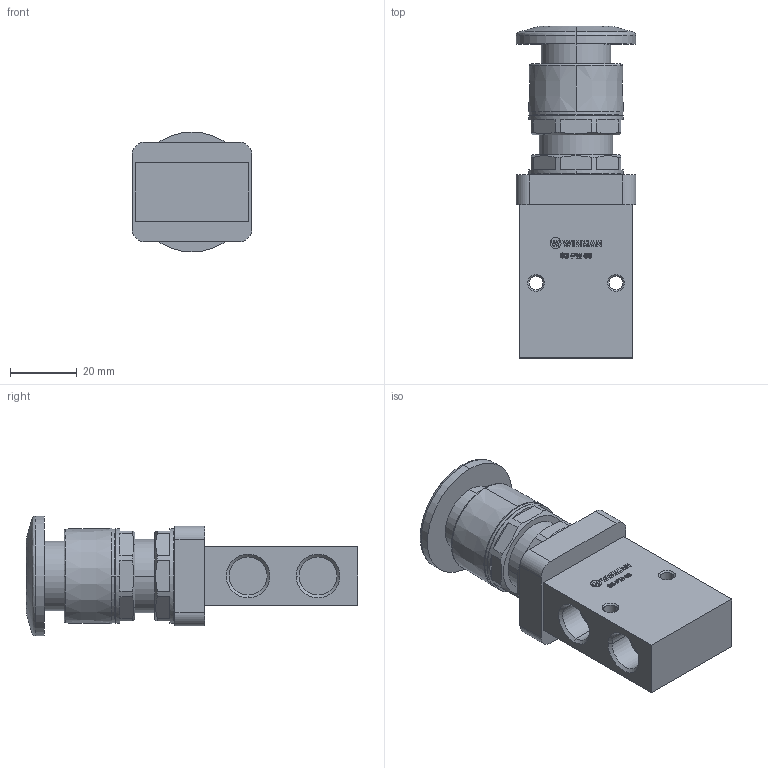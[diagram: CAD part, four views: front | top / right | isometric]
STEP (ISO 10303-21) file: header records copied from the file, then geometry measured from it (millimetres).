
FILE_DESCRIPTION (( 'STEP AP214' ), '1' );
FILE_NAME ('S3-PM-08 (3D).STEP', '2018-12-20T10:15:17', ( 'Hidtek' ), ( '' ), 'SwSTEP 2.0', 'SolidWorks 2016', '' );
FILE_SCHEMA (( 'AUTOMOTIVE_DESIGN' ));
Length unit declared in the file: millimetre
Products named in the file (6): _PP Type Base; S3-PM-08 (3D); S3-B-08; _Fix nut; _PM-B Type Button; S3-PM
Assembly tree (6 placements, depth 3):
  S3-PM-08 (3D)
    S3-B-08
    S3-PM
      _PP Type Base
      _Fix nut  x2
      _PM-B Type Button
Bounding box: 36 x 99.7 x 36 mm (x, y, z)
Volume: 61263.3 mm3; surface area: 20746.8 mm2
Topology: 5 solids, 5 shells, 363 faces, 919 edges, 597 vertices
Faces by surface type: plane 195, bspline 76, cylinder 46, cone 44, torus 2
Entity records: 15696 total; most frequent: CARTESIAN_POINT 5710, ORIENTED_EDGE 1666, DIRECTION 1361, EDGE_CURVE 833, VERTEX_POINT 545, VECTOR 529, LINE 529, AXIS2_PLACEMENT_3D 416
